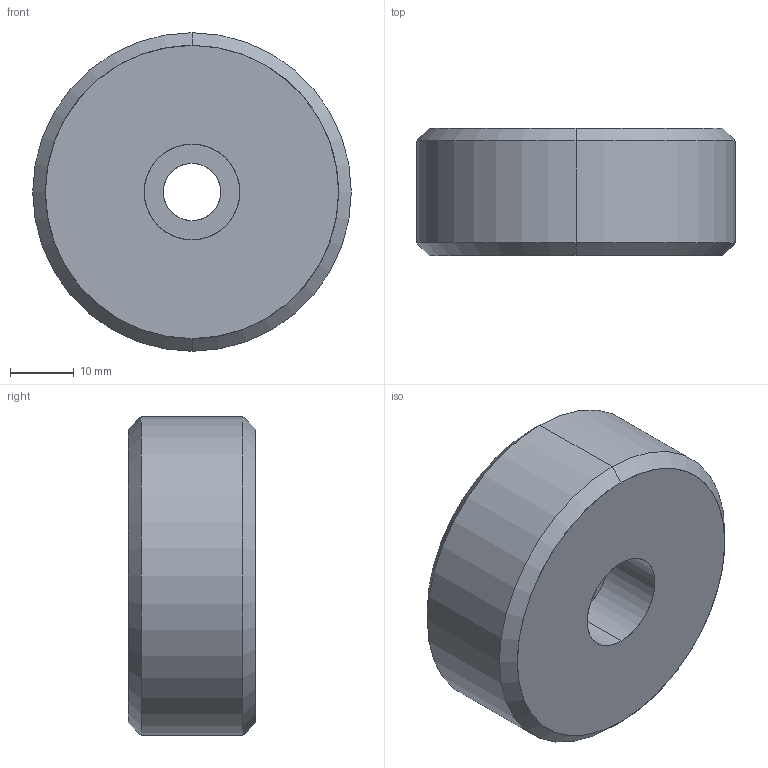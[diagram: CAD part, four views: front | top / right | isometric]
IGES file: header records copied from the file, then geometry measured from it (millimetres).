
Start section: START RECORD GO HERE.
Global section: file name: 758+50+20+10.igs; native system: DASSAULT SYSTEMES CATIA V5 R20 - www.3ds.com; preprocessor: CATIA Version 5 Release 20 ; author: Utente; organization: NB04-ASUS; date: 20201028.202746; units: millimetre
Bounding box: 50 x 20 x 50 mm (x, y, z)
Surface area: 7316.9 mm2 (no closed solid volume)
Topology: 0 solids, 0 shells, 13 faces, 52 edges, 52 vertices
Faces by surface type: revolution 10, plane 3
